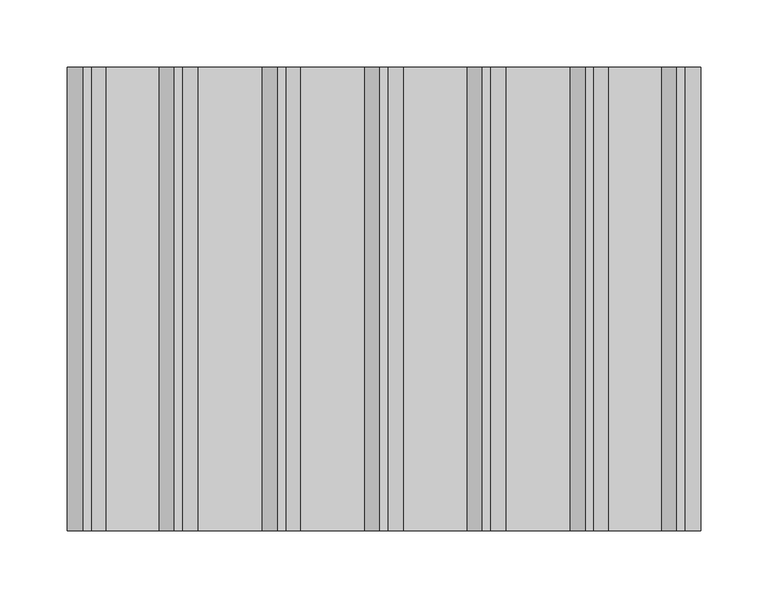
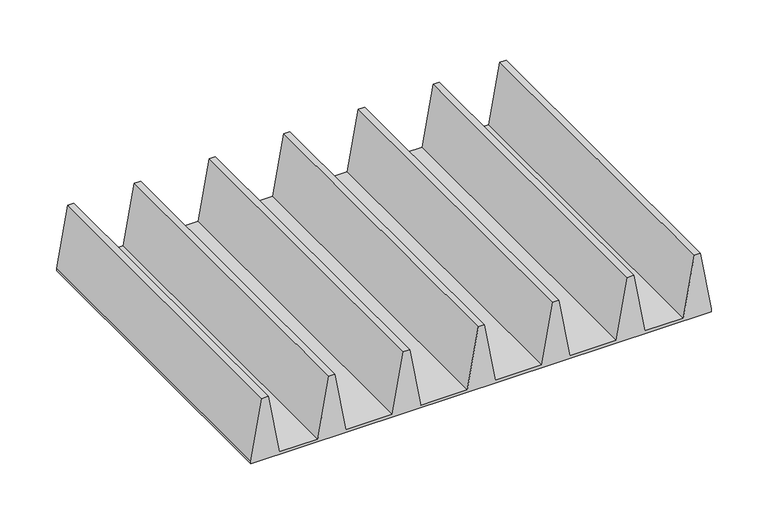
"""IFC4 building model written with IfcOpenShell, lengths in millimetres: furniture geometry."""

from ifc_helpers import new_model, si_unit, frame, origin, place, context, project, spatial, polyline, outline, extrude, source, transform, mapped, element, save


def furniture_c520e785(model_context):
    return source(origin(), model_context, "Body", "SweptSolid", [
        extrude(outline(polyline([(1108.0813846, -234.8826517), (1108.0813846, 235.0173483), (1111.1075565, 235.0173483), (1174.7563846, 223.7943426), (1174.7563846, 217.4443426), (1111.1075565, 206.221337), (1111.1075565, 166.865354), (1174.7563846, 155.6423483), (1174.7563846, 149.2923483), (1111.1075565, 138.0693426), (1111.1075565, 90.665354), (1174.7563846, 79.4423483), (1174.7563846, 73.0923483), (1111.1075565, 61.8693426), (1111.1075565, 14.465354), (1174.7563846, 3.2423483), (1174.7563846, -3.1076517), (1111.1075565, -14.3306574), (1111.1075565, -61.734646), (1174.7563846, -72.9576517), (1174.7563846, -79.3076517), (1111.1075565, -90.5306574), (1111.1075565, -137.934646), (1174.7563846, -149.1576517), (1174.7563846, -155.5076517), (1111.1075565, -166.7306574), (1111.1075565, -206.0866403), (1174.7563846, -217.309646), (1174.7563846, -223.659646), (1111.1075565, -234.8826517), (1108.0813846, -234.8826517)])), frame((0.0, -171.831, 0.0), z_axis=(0.0, 1.0, 0.0), x_axis=(0.0, 0.0, 1.0)), (0.0, 0.0, 1.0), 343.662),
    ])


if __name__ == "__main__":
    model = new_model("IFC4")
    model_context = context("Model", 3, world=origin())
    ifc_project = project(units=[si_unit("LENGTHUNIT", "METRE", prefix="MILLI")], contexts=[model_context])
    site = spatial("IfcSite", under=ifc_project)
    building = spatial("IfcBuilding", under=site)
    placement = place(None, origin())
    furniture_shape = furniture_c520e785(model_context)
    element("IfcFurniture", 1, ObjectType="HermanMiller_CoStruc_CO242_Subdivider Vane : 2 5/8\"Hx13 3/4\"D x 18 1/2\"W", at=placement, inside=building, context=model_context, shape_type="MappedRepresentation", body=[
        mapped(furniture_shape, transform((0.0, 0.0, 0.0), x_axis=(1.0, 0.0, 0.0), y_axis=(0.0, 1.0, 0.0), z_axis=(0.0, 0.0, 1.0))),
    ])
    save(model, "model.ifc")
